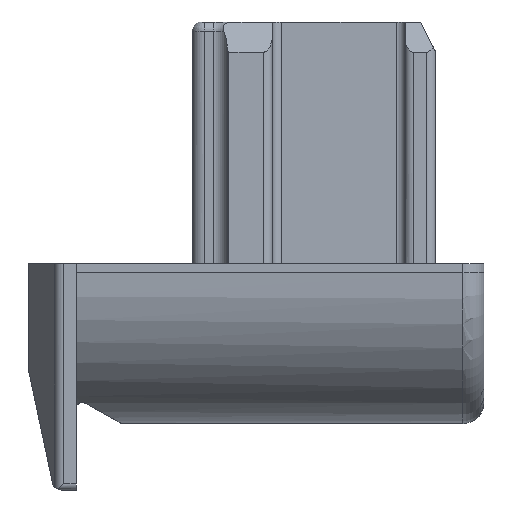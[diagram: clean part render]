
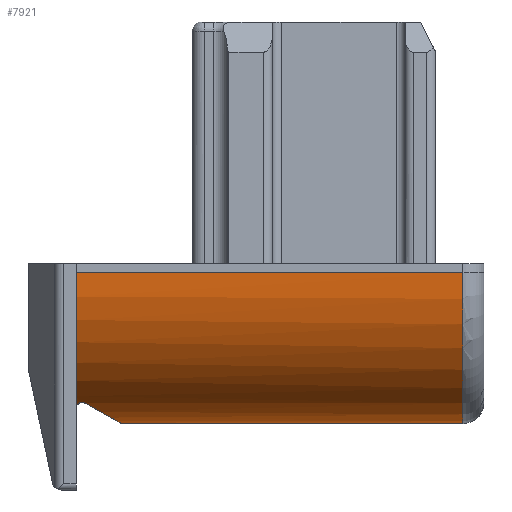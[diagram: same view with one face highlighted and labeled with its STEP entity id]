
A CAD part, left-side view. The second image highlights one B-rep face of the part: STEP entity #7921.
In plain terms, the highlighted cylindrical face has radius 5 mm (diameter 10 mm), a partial arc.
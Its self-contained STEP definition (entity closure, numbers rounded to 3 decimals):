
#39 = ORIENTED_EDGE ( 'NONE', *, *, #3682, .T. ) ;
#45 = CARTESIAN_POINT ( 'NONE',  ( -5.836, 12., -5.3 ) ) ;
#132 = VECTOR ( 'NONE', #2634, 1000. ) ;
#604 = CARTESIAN_POINT ( 'NONE',  ( -7.176, 13.5, -4.778 ) ) ;
#896 = EDGE_CURVE ( 'NONE', #7421, #15162, #3849, .T. ) ;
#942 = DIRECTION ( 'NONE',  ( 1., 0., 0. ) ) ;
#1018 = CYLINDRICAL_SURFACE ( 'NONE', #10121, 5. ) ;
#1101 = FACE_OUTER_BOUND ( 'NONE', #15576, .T. ) ;
#1626 = CARTESIAN_POINT ( 'NONE',  ( -9.95, 0.7, -0.3 ) ) ;
#1640 = CARTESIAN_POINT ( 'NONE',  ( -7.485, 13.366, -4.61 ) ) ;
#1722 = CARTESIAN_POINT ( 'NONE',  ( -7.129, 13.5, -4.8 ) ) ;
#2271 = VERTEX_POINT ( 'NONE', #9214 ) ;
#2397 = VERTEX_POINT ( 'NONE', #5672 ) ;
#2634 = DIRECTION ( 'NONE',  ( 0., -1., 0. ) ) ;
#2719 = DIRECTION ( 'NONE',  ( 0., 1., 0. ) ) ;
#2754 = CARTESIAN_POINT ( 'NONE',  ( -6.691, 12.41, -5.07 ) ) ;
#2930 = CARTESIAN_POINT ( 'NONE',  ( -7.458, 13.202, -4.626 ) ) ;
#3310 = EDGE_CURVE ( 'NONE', #2397, #2271, #5930, .T. ) ;
#3366 = CIRCLE ( 'NONE', #14890, 5. ) ;
#3588 = DIRECTION ( 'NONE',  ( 0., -1., 0. ) ) ;
#3675 = CARTESIAN_POINT ( 'NONE',  ( -4.95, 40.56, -5.3 ) ) ;
#3682 = EDGE_CURVE ( 'NONE', #7404, #2397, #3366, .T. ) ;
#3849 = CIRCLE ( 'NONE', #6418, 5. ) ;
#4946 = CARTESIAN_POINT ( 'NONE',  ( -4.95, 12., -5.3 ) ) ;
#5051 = CARTESIAN_POINT ( 'NONE',  ( -9.95, 40.56, -0.3 ) ) ;
#5257 = CARTESIAN_POINT ( 'NONE',  ( -4.95, 12., -5.3 ) ) ;
#5583 = CARTESIAN_POINT ( 'NONE',  ( -7.416, 13.433, -4.65 ) ) ;
#5672 = CARTESIAN_POINT ( 'NONE',  ( -7.129, 13.5, -4.8 ) ) ;
#5767 = CARTESIAN_POINT ( 'NONE',  ( -4.95, 40.56, -0.3 ) ) ;
#5930 = B_SPLINE_CURVE_WITH_KNOTS ( 'NONE', 3,
 ( #1722, #604, #15056, #6639, #15140, #5583, #10327, #8962, #1640, #10485, #6560, #11458, #13945, #2930 ),
 .UNSPECIFIED., .F., .F.,
 ( 4, 2, 2, 2, 2, 2, 4 ),
 ( 0., 0., 0., 0., 0., 0.001, 0.001 ),
 .UNSPECIFIED. ) ;
#5988 = EDGE_CURVE ( 'NONE', #7404, #15162, #9798, .T. ) ;
#6242 = LINE ( 'NONE', #3675, #8374 ) ;
#6418 = AXIS2_PLACEMENT_3D ( 'NONE', #13733, #2719, #7633 ) ;
#6560 = CARTESIAN_POINT ( 'NONE',  ( -7.504, 13.29, -4.599 ) ) ;
#6639 = CARTESIAN_POINT ( 'NONE',  ( -7.31, 13.479, -4.708 ) ) ;
#7404 = VERTEX_POINT ( 'NONE', #15376 ) ;
#7421 = VERTEX_POINT ( 'NONE', #8958 ) ;
#7633 = DIRECTION ( 'NONE',  ( 1., 0., 0. ) ) ;
#7921 = ADVANCED_FACE ( 'NONE', ( #1101 ), #1018, .T. ) ;
#8374 = VECTOR ( 'NONE', #8735, 1000. ) ;
#8735 = DIRECTION ( 'NONE',  ( 0., -1., 0. ) ) ;
#8958 = CARTESIAN_POINT ( 'NONE',  ( -4.95, 0.7, -5.3 ) ) ;
#8962 = CARTESIAN_POINT ( 'NONE',  ( -7.47, 13.386, -4.619 ) ) ;
#9214 = CARTESIAN_POINT ( 'NONE',  ( -7.458, 13.202, -4.626 ) ) ;
#9351 = DIRECTION ( 'NONE',  ( 0., 0., -1. ) ) ;
#9798 = LINE ( 'NONE', #5051, #132 ) ;
#10069 = CARTESIAN_POINT ( 'NONE',  ( -7.458, 13.202, -4.626 ) ) ;
#10121 = AXIS2_PLACEMENT_3D ( 'NONE', #5767, #3588, #942 ) ;
#10327 = CARTESIAN_POINT ( 'NONE',  ( -7.435, 13.42, -4.639 ) ) ;
#10485 = CARTESIAN_POINT ( 'NONE',  ( -7.503, 13.318, -4.599 ) ) ;
#10550 = CARTESIAN_POINT ( 'NONE',  ( -4.95, 13.5, -0.3 ) ) ;
#10619 = ORIENTED_EDGE ( 'NONE', *, *, #13414, .T. ) ;
#11458 = CARTESIAN_POINT ( 'NONE',  ( -7.489, 13.241, -4.607 ) ) ;
#11780 = VERTEX_POINT ( 'NONE', #5257 ) ;
#11813 =( BOUNDED_CURVE ( )  B_SPLINE_CURVE ( 3, ( #10069, #2754, #45, #4946 ),
 .UNSPECIFIED., .F., .T. ) 
 B_SPLINE_CURVE_WITH_KNOTS ( ( 4, 4 ),
 ( 5.758, 6.283 ),
 .UNSPECIFIED. ) 
 CURVE ( )  GEOMETRIC_REPRESENTATION_ITEM ( )  RATIONAL_B_SPLINE_CURVE ( ( 1., 0.977, 0.977, 1. ) ) 
 REPRESENTATION_ITEM ( '' )  );
#12407 = ORIENTED_EDGE ( 'NONE', *, *, #5988, .F. ) ;
#13414 = EDGE_CURVE ( 'NONE', #11780, #7421, #6242, .T. ) ;
#13733 = CARTESIAN_POINT ( 'NONE',  ( -4.95, 0.7, -0.3 ) ) ;
#13945 = CARTESIAN_POINT ( 'NONE',  ( -7.475, 13.22, -4.616 ) ) ;
#14071 = ORIENTED_EDGE ( 'NONE', *, *, #3310, .T. ) ;
#14321 = ORIENTED_EDGE ( 'NONE', *, *, #896, .T. ) ;
#14405 = DIRECTION ( 'NONE',  ( 0., -1., 0. ) ) ;
#14890 = AXIS2_PLACEMENT_3D ( 'NONE', #10550, #14405, #9351 ) ;
#15056 = CARTESIAN_POINT ( 'NONE',  ( -7.221, 13.496, -4.755 ) ) ;
#15140 = CARTESIAN_POINT ( 'NONE',  ( -7.354, 13.466, -4.684 ) ) ;
#15153 = EDGE_CURVE ( 'NONE', #2271, #11780, #11813, .T. ) ;
#15162 = VERTEX_POINT ( 'NONE', #1626 ) ;
#15376 = CARTESIAN_POINT ( 'NONE',  ( -9.95, 13.5, -0.3 ) ) ;
#15576 = EDGE_LOOP ( 'NONE', ( #14071, #15652, #10619, #14321, #12407, #39 ) ) ;
#15652 = ORIENTED_EDGE ( 'NONE', *, *, #15153, .T. ) ;
